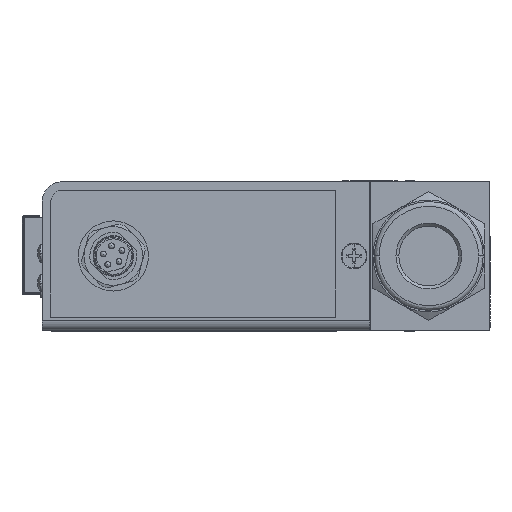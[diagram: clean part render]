
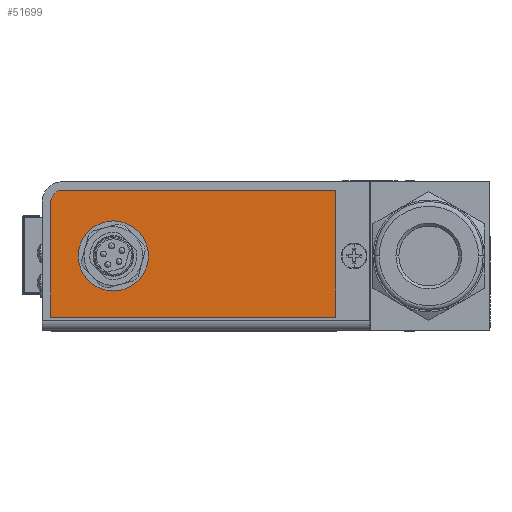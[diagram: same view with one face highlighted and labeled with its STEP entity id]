
A CAD part, left-side view. The second image highlights one B-rep face of the part: STEP entity #51699.
In plain terms, the highlighted planar face has unit normal (-1, 0, 0).
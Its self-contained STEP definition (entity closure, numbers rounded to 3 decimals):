
#68 = PLANE ( 'NONE',  #70976 ) ;
#793 = FACE_BOUND ( 'NONE', #65892, .T. ) ;
#2229 = VECTOR ( 'NONE', #118580, 1000. ) ;
#2257 = DIRECTION ( 'NONE',  ( 0., -1., 0. ) ) ;
#4436 = LINE ( 'NONE', #14947, #2229 ) ;
#4461 = CARTESIAN_POINT ( 'NONE',  ( -0.127, 53.657, 0. ) ) ;
#4644 = CARTESIAN_POINT ( 'NONE',  ( -0.127, 64.325, 9.144 ) ) ;
#9646 = CARTESIAN_POINT ( 'NONE',  ( -0.127, 64.325, -10.414 ) ) ;
#10756 = CIRCLE ( 'NONE', #142627, 5.969 ) ;
#14947 = CARTESIAN_POINT ( 'NONE',  ( -0.127, 64.325, -10.414 ) ) ;
#18908 = LINE ( 'NONE', #51258, #79156 ) ;
#20092 = AXIS2_PLACEMENT_3D ( 'NONE', #100763, #65494, #145828 ) ;
#20258 = CARTESIAN_POINT ( 'NONE',  ( -0.127, 62.293, 11.176 ) ) ;
#36035 = DIRECTION ( 'NONE',  ( 0., -1., 0. ) ) ;
#38042 = EDGE_CURVE ( 'NONE', #67977, #107056, #10756, .T. ) ;
#39002 = DIRECTION ( 'NONE',  ( -1., 0., 0. ) ) ;
#39054 = ORIENTED_EDGE ( 'NONE', *, *, #57615, .T. ) ;
#42138 = EDGE_CURVE ( 'NONE', #67240, #111652, #4436, .T. ) ;
#43175 = DIRECTION ( 'NONE',  ( 0., -1., 0. ) ) ;
#51258 = CARTESIAN_POINT ( 'NONE',  ( -0.127, 62.293, 11.176 ) ) ;
#51699 = ADVANCED_FACE ( 'NONE', ( #102228, #793 ), #68, .T. ) ;
#55647 = VERTEX_POINT ( 'NONE', #66495 ) ;
#57479 = VECTOR ( 'NONE', #63459, 1000. ) ;
#57615 = EDGE_CURVE ( 'NONE', #69066, #55647, #131792, .T. ) ;
#61343 = VERTEX_POINT ( 'NONE', #20258 ) ;
#63459 = DIRECTION ( 'NONE',  ( 0., 0., 1. ) ) ;
#64023 = DIRECTION ( 'NONE',  ( 0., 1., 0. ) ) ;
#64184 = CARTESIAN_POINT ( 'NONE',  ( -0.127, 15.811, -10.414 ) ) ;
#65494 = DIRECTION ( 'NONE',  ( -1., 0., 0. ) ) ;
#65892 = EDGE_LOOP ( 'NONE', ( #118353, #85440 ) ) ;
#66474 = CARTESIAN_POINT ( 'NONE',  ( -0.127, 64.325, -10.414 ) ) ;
#66495 = CARTESIAN_POINT ( 'NONE',  ( -0.127, 15.811, 11.176 ) ) ;
#67210 = LINE ( 'NONE', #66474, #116479 ) ;
#67240 = VERTEX_POINT ( 'NONE', #4644 ) ;
#67977 = VERTEX_POINT ( 'NONE', #128610 ) ;
#69066 = VERTEX_POINT ( 'NONE', #97799 ) ;
#70976 = AXIS2_PLACEMENT_3D ( 'NONE', #79694, #92414, #36035 ) ;
#71470 = EDGE_CURVE ( 'NONE', #107056, #67977, #117226, .T. ) ;
#73566 = DIRECTION ( 'NONE',  ( -1., 0., 0. ) ) ;
#79156 = VECTOR ( 'NONE', #64023, 1000. ) ;
#79694 = CARTESIAN_POINT ( 'NONE',  ( -0.127, 62.293, 9.144 ) ) ;
#84907 = CIRCLE ( 'NONE', #20092, 2.032 ) ;
#85400 = CARTESIAN_POINT ( 'NONE',  ( -0.127, 59.626, 0. ) ) ;
#85440 = ORIENTED_EDGE ( 'NONE', *, *, #38042, .F. ) ;
#92414 = DIRECTION ( 'NONE',  ( -1., 0., 0. ) ) ;
#93356 = EDGE_LOOP ( 'NONE', ( #140346, #39054, #93416, #100087, #144830 ) ) ;
#93416 = ORIENTED_EDGE ( 'NONE', *, *, #131840, .T. ) ;
#97799 = CARTESIAN_POINT ( 'NONE',  ( -0.127, 15.811, -10.414 ) ) ;
#100087 = ORIENTED_EDGE ( 'NONE', *, *, #141505, .T. ) ;
#100763 = CARTESIAN_POINT ( 'NONE',  ( -0.127, 62.293, 9.144 ) ) ;
#102228 = FACE_OUTER_BOUND ( 'NONE', #93356, .T. ) ;
#106597 = DIRECTION ( 'NONE',  ( 0., -1., 0. ) ) ;
#107056 = VERTEX_POINT ( 'NONE', #85400 ) ;
#111652 = VERTEX_POINT ( 'NONE', #9646 ) ;
#116391 = CARTESIAN_POINT ( 'NONE',  ( -0.127, 53.657, 0. ) ) ;
#116479 = VECTOR ( 'NONE', #43175, 1000. ) ;
#117226 = CIRCLE ( 'NONE', #136420, 5.969 ) ;
#118353 = ORIENTED_EDGE ( 'NONE', *, *, #71470, .F. ) ;
#118580 = DIRECTION ( 'NONE',  ( 0., 0., -1. ) ) ;
#128610 = CARTESIAN_POINT ( 'NONE',  ( -0.127, 47.688, 0. ) ) ;
#131792 = LINE ( 'NONE', #64184, #57479 ) ;
#131840 = EDGE_CURVE ( 'NONE', #55647, #61343, #18908, .T. ) ;
#136420 = AXIS2_PLACEMENT_3D ( 'NONE', #116391, #39002, #2257 ) ;
#140346 = ORIENTED_EDGE ( 'NONE', *, *, #144924, .T. ) ;
#141505 = EDGE_CURVE ( 'NONE', #61343, #67240, #84907, .T. ) ;
#142627 = AXIS2_PLACEMENT_3D ( 'NONE', #4461, #73566, #106597 ) ;
#144830 = ORIENTED_EDGE ( 'NONE', *, *, #42138, .T. ) ;
#144924 = EDGE_CURVE ( 'NONE', #111652, #69066, #67210, .T. ) ;
#145828 = DIRECTION ( 'NONE',  ( 0., -1., 0. ) ) ;
